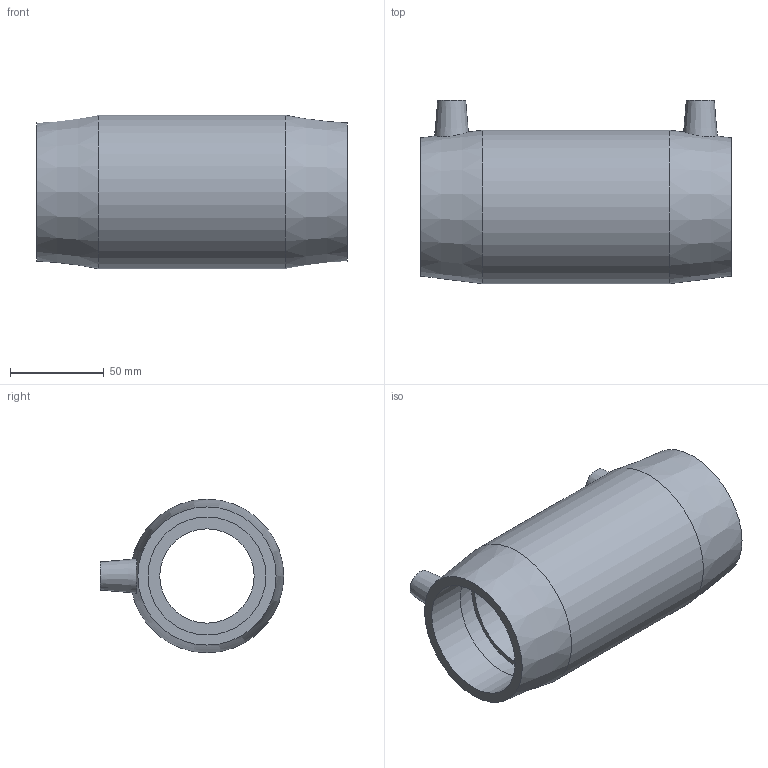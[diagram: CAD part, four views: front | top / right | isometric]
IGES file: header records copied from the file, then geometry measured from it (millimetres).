
Global section: file name: 4901L4063.ipt; native system: Autodesk Inventor 2015; preprocessor: unknown; author: KIM; date: 20171106.093603; units: millimetre
Bounding box: 166 x 98 x 82 mm (x, y, z)
Volume: 330792.1 mm3; surface area: 83419.3 mm2
Topology: 1 solids, 1 shells, 28 faces, 64 edges, 46 vertices
Faces by surface type: plane 12, revolution 9, cone 4, cylinder 3
Full cylindrical faces by diameter (mm): 4 x2, 82 x1
